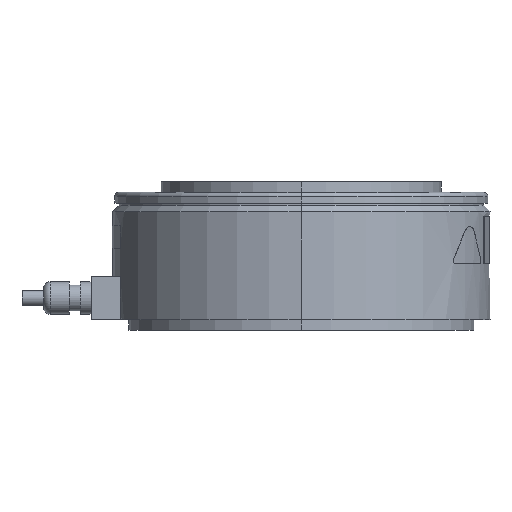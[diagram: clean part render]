
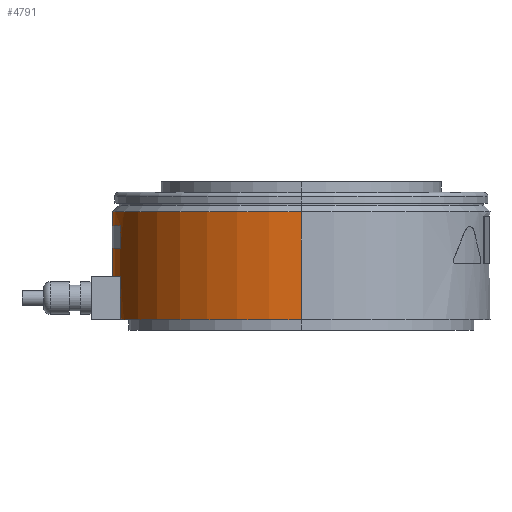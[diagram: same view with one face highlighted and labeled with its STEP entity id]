
A CAD part, left-side view. The second image highlights one B-rep face of the part: STEP entity #4791.
In plain terms, the highlighted cylindrical face has radius 87.5 mm (diameter 175 mm), a partial arc.
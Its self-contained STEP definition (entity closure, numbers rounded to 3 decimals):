
#678 = CARTESIAN_POINT ( 'NONE',  ( 0., 0., 38. ) ) ;
#680 = DIRECTION ( 'NONE',  ( 0., 0., 1. ) ) ;
#681 = DIRECTION ( 'NONE',  ( -1., 0., 0. ) ) ;
#798 = AXIS2_PLACEMENT_3D ( 'NONE', #678, #680, #681 ) ;
#1211 = VERTEX_POINT ( 'NONE', #3290 ) ;
#1212 = VERTEX_POINT ( 'NONE', #3291 ) ;
#1213 = VERTEX_POINT ( 'NONE', #3292 ) ;
#1214 = VERTEX_POINT ( 'NONE', #3293 ) ;
#1215 = VERTEX_POINT ( 'NONE', #3294 ) ;
#1216 = VERTEX_POINT ( 'NONE', #3295 ) ;
#1348 = CIRCLE ( 'NONE', #798, 87.5 ) ;
#1386 = AXIS2_PLACEMENT_3D ( 'NONE', #4989, #4991, #4992 ) ;
#1392 = AXIS2_PLACEMENT_3D ( 'NONE', #5001, #5003, #5004 ) ;
#1393 = AXIS2_PLACEMENT_3D ( 'NONE', #4999, #5007, #5008 ) ;
#1394 = AXIS2_PLACEMENT_3D ( 'NONE', #5018, #5019, #5020 ) ;
#1421 = AXIS2_PLACEMENT_3D ( 'NONE', #4430, #4432, #4433 ) ;
#1472 = AXIS2_PLACEMENT_3D ( 'NONE', #2337, #2340, #2339 ) ;
#1722 = LINE ( 'NONE', #4978, #2147 ) ;
#1979 = EDGE_LOOP ( 'NONE', ( #3709, #3708, #2143, #2141 ) ) ;
#2131 = ORIENTED_EDGE ( 'NONE', *, *, #4540, .F. ) ;
#2132 = ORIENTED_EDGE ( 'NONE', *, *, #4543, .F. ) ;
#2133 = ORIENTED_EDGE ( 'NONE', *, *, #4541, .T. ) ;
#2134 = ORIENTED_EDGE ( 'NONE', *, *, #4591, .T. ) ;
#2135 = ORIENTED_EDGE ( 'NONE', *, *, #4538, .F. ) ;
#2136 = ORIENTED_EDGE ( 'NONE', *, *, #4539, .F. ) ;
#2137 = ORIENTED_EDGE ( 'NONE', *, *, #5156, .F. ) ;
#2138 = ORIENTED_EDGE ( 'NONE', *, *, #4527, .F. ) ;
#2141 = ORIENTED_EDGE ( 'NONE', *, *, #4537, .T. ) ;
#2143 = ORIENTED_EDGE ( 'NONE', *, *, #4531, .F. ) ;
#2147 = VECTOR ( 'NONE', #4980, 1000. ) ;
#2153 = LINE ( 'NONE', #4997, #2159 ) ;
#2155 = VECTOR ( 'NONE', #5006, 1000. ) ;
#2156 = CIRCLE ( 'NONE', #1386, 87.5 ) ;
#2159 = VECTOR ( 'NONE', #5000, 1000. ) ;
#2160 = LINE ( 'NONE', #5005, #2155 ) ;
#2161 = LINE ( 'NONE', #5009, #2162 ) ;
#2162 = VECTOR ( 'NONE', #5010, 1000. ) ;
#2163 = CIRCLE ( 'NONE', #1392, 87.5 ) ;
#2164 = LINE ( 'NONE', #5002, #2168 ) ;
#2165 = CIRCLE ( 'NONE', #1393, 87.5 ) ;
#2166 = LINE ( 'NONE', #5011, #2167 ) ;
#2167 = VECTOR ( 'NONE', #5012, 1000. ) ;
#2168 = VECTOR ( 'NONE', #5014, 1000. ) ;
#2171 = CIRCLE ( 'NONE', #1394, 87.5 ) ;
#2243 = CIRCLE ( 'NONE', #1421, 87.5 ) ;
#2337 = CARTESIAN_POINT ( 'NONE',  ( 0., 0., 0. ) ) ;
#2339 = DIRECTION ( 'NONE',  ( -1., 0., 0. ) ) ;
#2340 = DIRECTION ( 'NONE',  ( 0., 0., -1. ) ) ;
#3290 = CARTESIAN_POINT ( 'NONE',  ( -25., 83.853, 38. ) ) ;
#3291 = CARTESIAN_POINT ( 'NONE',  ( -25., 83.853, 48.5 ) ) ;
#3292 = CARTESIAN_POINT ( 'NONE',  ( 25., 83.853, 38. ) ) ;
#3293 = CARTESIAN_POINT ( 'NONE',  ( 25., 83.853, 48.5 ) ) ;
#3294 = CARTESIAN_POINT ( 'NONE',  ( 87.5, 0., 5. ) ) ;
#3295 = CARTESIAN_POINT ( 'NONE',  ( -87.5, 0., 5. ) ) ;
#3603 = VERTEX_POINT ( 'NONE', #5450 ) ;
#3604 = VERTEX_POINT ( 'NONE', #5451 ) ;
#3627 = VERTEX_POINT ( 'NONE', #5474 ) ;
#3628 = VERTEX_POINT ( 'NONE', #5475 ) ;
#3629 = VERTEX_POINT ( 'NONE', #5476 ) ;
#3630 = VERTEX_POINT ( 'NONE', #5477 ) ;
#3708 = ORIENTED_EDGE ( 'NONE', *, *, #4535, .T. ) ;
#3709 = ORIENTED_EDGE ( 'NONE', *, *, #4536, .T. ) ;
#4260 = FACE_BOUND ( 'NONE', #1979, .T. ) ;
#4264 = CYLINDRICAL_SURFACE ( 'NONE', #1472, 87.5 ) ;
#4268 = FACE_BOUND ( 'NONE', #5520, .T. ) ;
#4270 = FACE_OUTER_BOUND ( 'NONE', #5517, .T. ) ;
#4430 = CARTESIAN_POINT ( 'NONE',  ( 0., 0., 55. ) ) ;
#4432 = DIRECTION ( 'NONE',  ( 0., 0., -1. ) ) ;
#4433 = DIRECTION ( 'NONE',  ( -1., 0., 0. ) ) ;
#4527 = EDGE_CURVE ( 'NONE', #1211, #1212, #1722, .T. ) ;
#4531 = EDGE_CURVE ( 'NONE', #3630, #3629, #2156, .T. ) ;
#4535 = EDGE_CURVE ( 'NONE', #3628, #3629, #2153, .T. ) ;
#4536 = EDGE_CURVE ( 'NONE', #3627, #3628, #2163, .T. ) ;
#4537 = EDGE_CURVE ( 'NONE', #3630, #3627, #2160, .T. ) ;
#4538 = EDGE_CURVE ( 'NONE', #1212, #1214, #2165, .T. ) ;
#4539 = EDGE_CURVE ( 'NONE', #1214, #1213, #2161, .T. ) ;
#4540 = EDGE_CURVE ( 'NONE', #3604, #1216, #2166, .T. ) ;
#4541 = EDGE_CURVE ( 'NONE', #3603, #1215, #2164, .T. ) ;
#4543 = EDGE_CURVE ( 'NONE', #1216, #1215, #2171, .T. ) ;
#4591 = EDGE_CURVE ( 'NONE', #3604, #3603, #2243, .T. ) ;
#4791 = ADVANCED_FACE ( 'NONE', ( #4260, #4268, #4270 ), #4264, .T. ) ;
#4978 = CARTESIAN_POINT ( 'NONE',  ( -25., 83.853, 0. ) ) ;
#4980 = DIRECTION ( 'NONE',  ( 0., 0., 1. ) ) ;
#4989 = CARTESIAN_POINT ( 'NONE',  ( 0., 0., 6. ) ) ;
#4991 = DIRECTION ( 'NONE',  ( 0., 0., 1. ) ) ;
#4992 = DIRECTION ( 'NONE',  ( -1., 0., 0. ) ) ;
#4997 = CARTESIAN_POINT ( 'NONE',  ( -25., 83.853, 0. ) ) ;
#4999 = CARTESIAN_POINT ( 'NONE',  ( 0., 0., 48.5 ) ) ;
#5000 = DIRECTION ( 'NONE',  ( 0., 0., -1. ) ) ;
#5001 = CARTESIAN_POINT ( 'NONE',  ( 0., 0., 25. ) ) ;
#5002 = CARTESIAN_POINT ( 'NONE',  ( 87.5, 0., 0. ) ) ;
#5003 = DIRECTION ( 'NONE',  ( 0., 0., 1. ) ) ;
#5004 = DIRECTION ( 'NONE',  ( -1., 0., 0. ) ) ;
#5005 = CARTESIAN_POINT ( 'NONE',  ( 25., 83.853, 0. ) ) ;
#5006 = DIRECTION ( 'NONE',  ( 0., 0., 1. ) ) ;
#5007 = DIRECTION ( 'NONE',  ( 0., 0., -1. ) ) ;
#5008 = DIRECTION ( 'NONE',  ( 1., 0., 0. ) ) ;
#5009 = CARTESIAN_POINT ( 'NONE',  ( 25., 83.853, 0. ) ) ;
#5010 = DIRECTION ( 'NONE',  ( 0., 0., -1. ) ) ;
#5011 = CARTESIAN_POINT ( 'NONE',  ( -87.5, 0., 0. ) ) ;
#5012 = DIRECTION ( 'NONE',  ( 0., 0., -1. ) ) ;
#5014 = DIRECTION ( 'NONE',  ( 0., 0., -1. ) ) ;
#5018 = CARTESIAN_POINT ( 'NONE',  ( 0., 0., 5. ) ) ;
#5019 = DIRECTION ( 'NONE',  ( 0., 0., -1. ) ) ;
#5020 = DIRECTION ( 'NONE',  ( -1., 0., 0. ) ) ;
#5156 = EDGE_CURVE ( 'NONE', #1213, #1211, #1348, .T. ) ;
#5450 = CARTESIAN_POINT ( 'NONE',  ( 87.5, 0., 55. ) ) ;
#5451 = CARTESIAN_POINT ( 'NONE',  ( -87.5, 0., 55. ) ) ;
#5474 = CARTESIAN_POINT ( 'NONE',  ( 25., 83.853, 25. ) ) ;
#5475 = CARTESIAN_POINT ( 'NONE',  ( -25., 83.853, 25. ) ) ;
#5476 = CARTESIAN_POINT ( 'NONE',  ( -25., 83.853, 6. ) ) ;
#5477 = CARTESIAN_POINT ( 'NONE',  ( 25., 83.853, 6. ) ) ;
#5517 = EDGE_LOOP ( 'NONE', ( #2134, #2133, #2132, #2131 ) ) ;
#5520 = EDGE_LOOP ( 'NONE', ( #2138, #2137, #2136, #2135 ) ) ;
